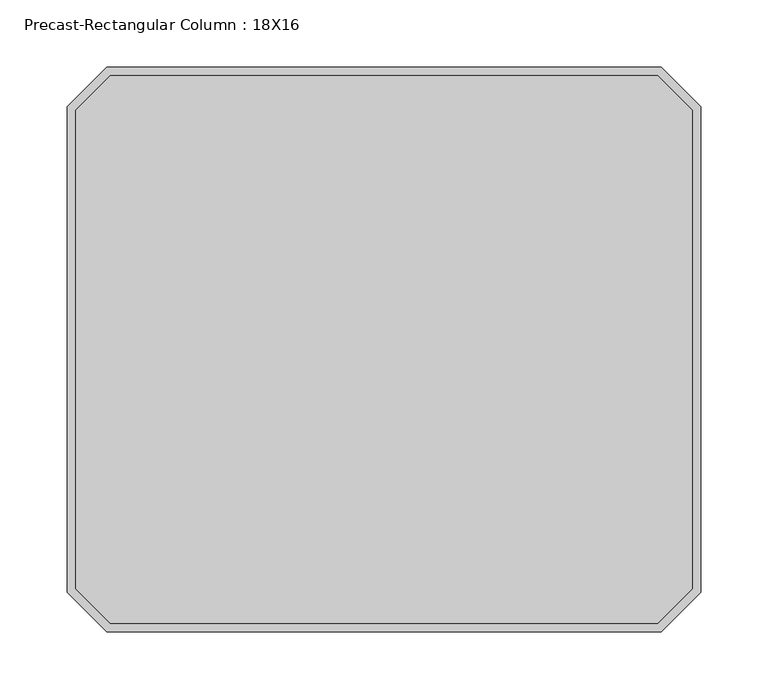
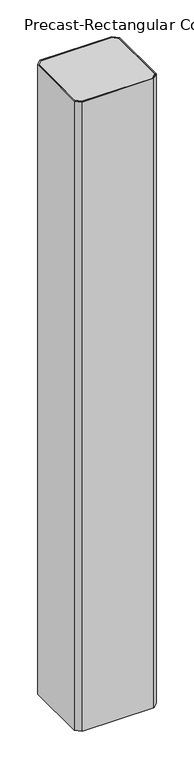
"""IFC4 building model written with IfcOpenShell, lengths in millimetres: column geometry, Precast-Rectangular Column : 18X16."""

from ifc_helpers import new_model, si_unit, frame, origin, place, context, project, spatial, polyline, outline, extrude, source, transform, mapped, element, save


def precast_rectangular_column_18x16_4c32c86e(model_context):
    return source(origin(), model_context, "Body", "SweptSolid", [
        extrude(outline(polyline([(-205.8302561, 209.55), (205.8302561, 209.55), (234.95, 180.4302561), (234.95, -180.4302561), (205.8302561, -209.55), (-205.8302561, -209.55), (-234.95, -180.4302561), (-234.95, 180.4302561), (-205.8302561, 209.55)]), holes=[polyline([(-203.2, 203.2), (-228.6, 177.8), (-228.6, -177.8), (-203.2, -203.2), (203.2, -203.2), (228.6, -177.8), (228.6, 177.8), (203.2, 203.2), (-203.2, 203.2)])]), frame((0.0, 0.0, -3816.35), z_axis=(0.0, 0.0, 1.0), x_axis=(1.0, 0.0, 0.0)), (0.0, 0.0, 1.0), 3816.35),
        extrude(outline(polyline([(203.2, 203.2), (228.6, 177.8), (228.6, -177.8), (203.2, -203.2), (-203.2, -203.2), (-228.6, -177.8), (-228.6, 177.8), (-203.2, 203.2), (203.2, 203.2)])), frame((0.0, 0.0, -3816.35), z_axis=(0.0, 0.0, 1.0), x_axis=(1.0, 0.0, 0.0)), (0.0, 0.0, 1.0), 3816.35),
    ])


if __name__ == "__main__":
    model = new_model("IFC4")
    model_context = context("Model", 3, world=origin())
    ifc_project = project(units=[si_unit("LENGTHUNIT", "METRE", prefix="MILLI")], contexts=[model_context])
    site = spatial("IfcSite", under=ifc_project)
    building = spatial("IfcBuilding", under=site)
    placement = place(None, origin())
    precast_rectangular_column_18x16_shape = precast_rectangular_column_18x16_4c32c86e(model_context)
    element("IfcColumn", 1, ObjectType="Precast-Rectangular Column : 18X16", at=placement, inside=building, context=model_context, shape_type="MappedRepresentation", body=[
        mapped(precast_rectangular_column_18x16_shape, transform((0.0, 0.0, 0.0), x_axis=(1.0, 0.0, 0.0), y_axis=(0.0, 1.0, 0.0), z_axis=(0.0, 0.0, 1.0))),
    ])
    save(model, "model.ifc")
